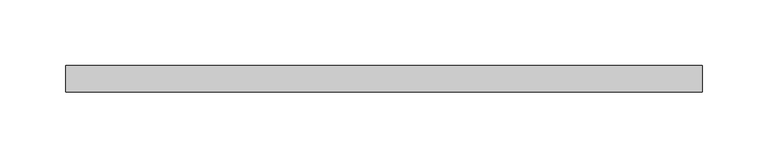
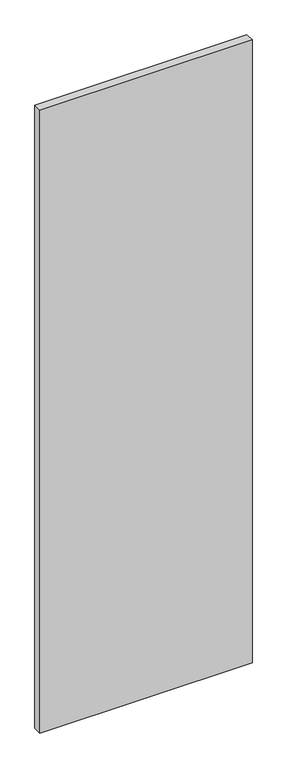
"""IFC4 building model written with IfcOpenShell, lengths in millimetres: proxy geometry, КНАУФ-Файерборд : КНАУФ-Файерборд."""

from ifc_helpers import new_model, si_unit, origin, origin_with_axes, place, context, project, spatial, polyline, outline, extrude, source, transform, mapped, element, save


def generic_models_c8f02a48(model_context):
    return source(origin(), model_context, "Body", "SweptSolid", [
        extrude(outline(polyline([(241.5, 0.0), (-241.5, 0.0), (-241.5, 20.0), (241.5, 20.0), (241.5, 0.0)])), origin_with_axes(), (0.0, 0.0, 1.0), 1500.0),
    ])


if __name__ == "__main__":
    model = new_model("IFC4")
    model_context = context("Model", 3, world=origin())
    ifc_project = project(units=[si_unit("LENGTHUNIT", "METRE", prefix="MILLI")], contexts=[model_context])
    site = spatial("IfcSite", under=ifc_project)
    building = spatial("IfcBuilding", under=site)
    placement = place(None, origin())
    generic_models_shape = generic_models_c8f02a48(model_context)
    element("IfcBuildingElementProxy", 1, Name="КНАУФ-Файерборд : КНАУФ-Файерборд", ObjectType="КНАУФ-Файерборд : КНАУФ-Файерборд", at=placement, inside=building, context=model_context, shape_type="MappedRepresentation", body=[
        mapped(generic_models_shape, transform((0.0, 0.0, 0.0), x_axis=(1.0, 0.0, 0.0), y_axis=(0.0, 1.0, 0.0), z_axis=(0.0, 0.0, 1.0))),
    ])
    save(model, "model.ifc")
